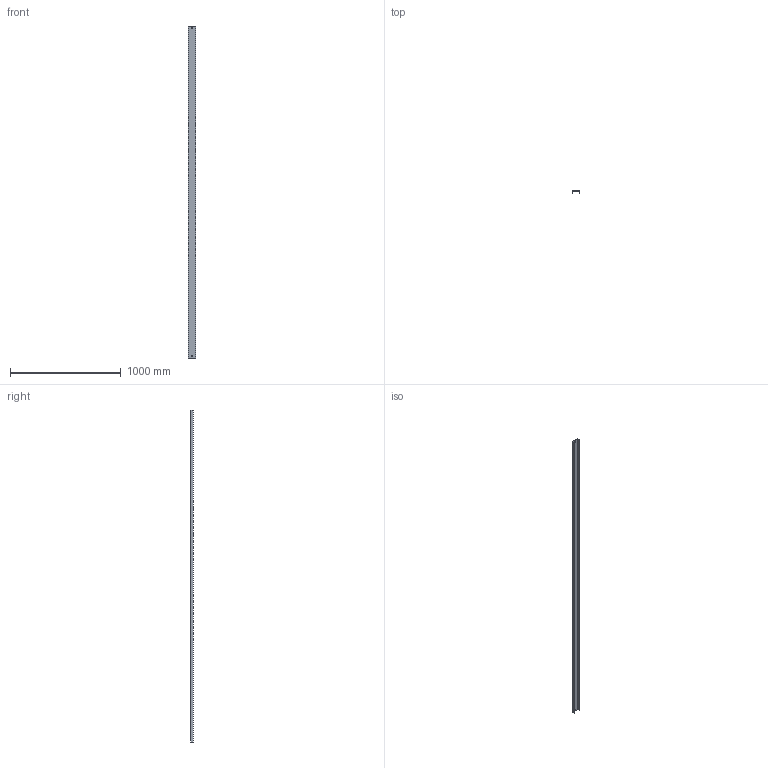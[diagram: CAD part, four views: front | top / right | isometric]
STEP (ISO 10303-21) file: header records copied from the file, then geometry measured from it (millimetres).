
FILE_DESCRIPTION (( 'STEP AP214' ), '1' );
FILE_NAME ('05N3R065.step', '2025-02-21T09:59:07', ( '' ), ( '' ), 'SwSTEP 2.0', 'SolidWorks 2023', '' );
FILE_SCHEMA (( 'AUTOMOTIVE_DESIGN' ));
Length unit declared in the file: millimetre
Products named in the file (1): 05N3R065
Bounding box: 68.5 x 20 x 3000 mm (x, y, z)
Volume: 474574.5 mm3; surface area: 642175.5 mm2
Topology: 1 solids, 1 shells, 18 faces, 48 edges, 32 vertices
Faces by surface type: plane 18
Entity records: 583 total; most frequent: CARTESIAN_POINT 99, ORIENTED_EDGE 96, DIRECTION 86, VECTOR 48, EDGE_CURVE 48, LINE 48, VERTEX_POINT 32, EDGE_LOOP 22
